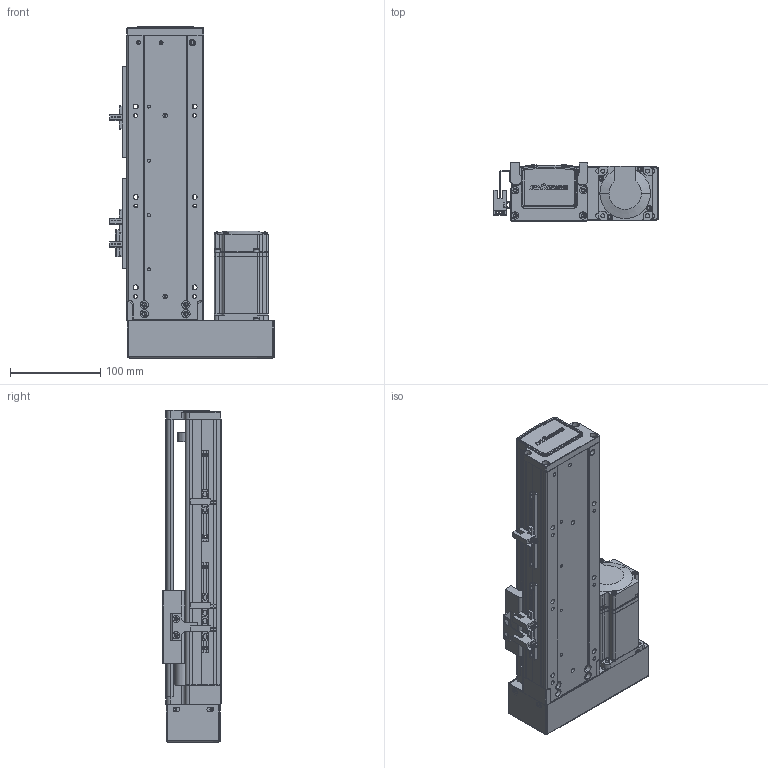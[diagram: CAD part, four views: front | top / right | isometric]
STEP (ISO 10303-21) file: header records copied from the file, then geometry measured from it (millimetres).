
FILE_DESCRIPTION (( 'STEP AP203' ), '1' );
FILE_NAME ('RY80-L1620-300-LK.SLDASM_150.step', '2021-02-20T07:16:30', ( '盈信电脑' ), ( '东莞市道滘镇水果街19号' ), 'SwSTEP 2.0', 'SolidWorks 2012', '' );
FILE_SCHEMA (( 'CONFIG_CONTROL_DESIGN' ));
Length unit declared in the file: millimetre
Products named in the file (15): 滅袉蝶18-24; RY80-L1620-300-LK.SLDASM_150; RY80酘殏俋欶; 覜茼ん672; RY80俋离覜茼え; T倰羞; 侂狟200W萇儂; 1; RY80酘莞萇儂假蚾啣; RY80转接电机端支撑座; 滅袉蝶18-10; RY80綴裔啣; RY80-300蛌諉倰第奻裔啣-LK_150; RY80臏賑輸; RY80-300蛌諉倰第菁釱-LK_150
Assembly tree (17 placements, depth 3):
  RY80-L1620-300-LK.SLDASM_150
    RY80-300蛌諉倰第菁釱-LK_150
    RY80臏賑輸
    RY80-300蛌諉倰第奻裔啣-LK_150
    RY80綴裔啣
    滅袉蝶18-10
    RY80转接电机端支撑座
    侂狟200W萇儂
      1
    RY80酘莞萇儂假蚾啣
    RY80酘殏俋欶
    覜茼ん672  x3
    T倰羞  x2
    RY80俋离覜茼え
    滅袉蝶18-24
Bounding box: 181.7 x 65 x 367 mm (x, y, z)
Volume: 1046560.9 mm3; surface area: 376829.7 mm2
Topology: 16 solids, 16 shells, 2030 faces, 5547 edges, 3589 vertices
Faces by surface type: plane 1147, cylinder 686, cone 135, bspline 62
Entity records: 62869 total; most frequent: CARTESIAN_POINT 15169, ORIENTED_EDGE 9782, DIRECTION 9266, EDGE_CURVE 4891, VERTEX_POINT 3205, LINE 3166, VECTOR 3166, AXIS2_PLACEMENT_3D 3050
